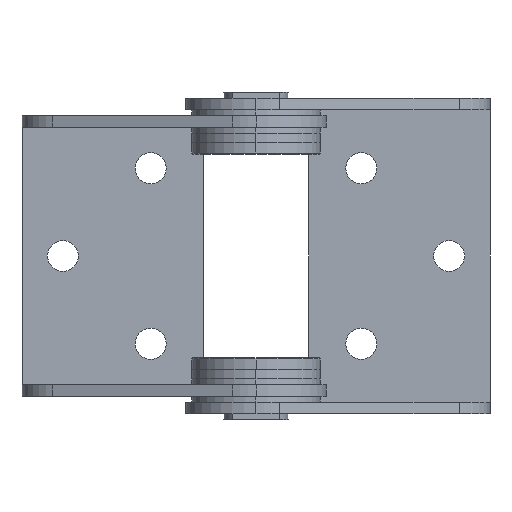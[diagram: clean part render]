
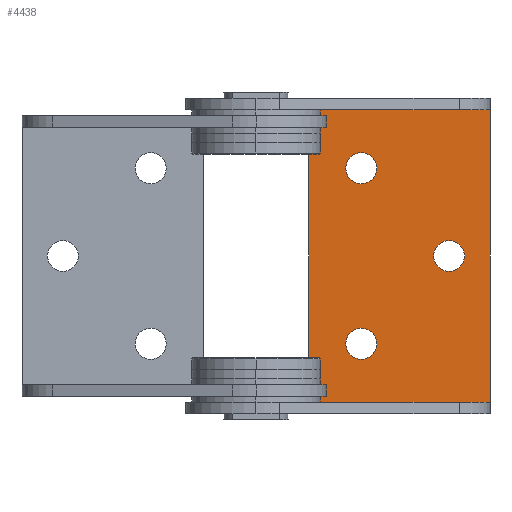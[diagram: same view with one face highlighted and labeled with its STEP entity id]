
A CAD part, left-side view. The second image highlights one B-rep face of the part: STEP entity #4438.
In plain terms, the highlighted planar face has unit normal (-1, 0, 0).
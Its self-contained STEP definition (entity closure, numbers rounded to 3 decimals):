
#131 = CIRCLE ( 'NONE', #140, 2.65 ) ;
#140 = AXIS2_PLACEMENT_3D ( 'NONE', #2436, #2437, #2438 ) ;
#144 = CIRCLE ( 'NONE', #146, 2.65 ) ;
#146 = AXIS2_PLACEMENT_3D ( 'NONE', #2446, #2447, #2448 ) ;
#150 = CIRCLE ( 'NONE', #152, 2.65 ) ;
#152 = AXIS2_PLACEMENT_3D ( 'NONE', #2456, #2457, #2458 ) ;
#205 = CIRCLE ( 'NONE', #224, 2.65 ) ;
#211 = CIRCLE ( 'NONE', #226, 2.65 ) ;
#217 = CIRCLE ( 'NONE', #228, 2.65 ) ;
#224 = AXIS2_PLACEMENT_3D ( 'NONE', #2655, #2656, #2657 ) ;
#226 = AXIS2_PLACEMENT_3D ( 'NONE', #2658, #2659, #2660 ) ;
#228 = AXIS2_PLACEMENT_3D ( 'NONE', #2661, #2662, #2663 ) ;
#230 = VECTOR ( 'NONE', #2665, 1000. ) ;
#232 = VECTOR ( 'NONE', #2667, 1000. ) ;
#271 = AXIS2_PLACEMENT_3D ( 'NONE', #2743, #2744, #2745 ) ;
#313 = VECTOR ( 'NONE', #2847, 1000. ) ;
#336 = VECTOR ( 'NONE', #2886, 1000. ) ;
#477 = CARTESIAN_POINT ( 'NONE',  ( 11., -15.35, 12. ) ) ;
#585 = ORIENTED_EDGE ( 'NONE', *, *, #4407, .T. ) ;
#586 = ORIENTED_EDGE ( 'NONE', *, *, #4406, .T. ) ;
#587 = ORIENTED_EDGE ( 'NONE', *, *, #4408, .T. ) ;
#588 = ORIENTED_EDGE ( 'NONE', *, *, #1502, .T. ) ;
#589 = ORIENTED_EDGE ( 'NONE', *, *, #4409, .T. ) ;
#590 = ORIENTED_EDGE ( 'NONE', *, *, #1506, .T. ) ;
#591 = ORIENTED_EDGE ( 'NONE', *, *, #4410, .F. ) ;
#592 = ORIENTED_EDGE ( 'NONE', *, *, #1510, .T. ) ;
#593 = ORIENTED_EDGE ( 'NONE', *, *, #4492, .F. ) ;
#595 = ORIENTED_EDGE ( 'NONE', *, *, #4474, .T. ) ;
#1388 = VERTEX_POINT ( 'NONE', #477 ) ;
#1502 = EDGE_CURVE ( 'NONE', #1615, #1388, #131, .T. ) ;
#1506 = EDGE_CURVE ( 'NONE', #1611, #1613, #144, .T. ) ;
#1510 = EDGE_CURVE ( 'NONE', #1612, #1572, #150, .T. ) ;
#1572 = VERTEX_POINT ( 'NONE', #2472 ) ;
#1590 = VERTEX_POINT ( 'NONE', #2490 ) ;
#1592 = VERTEX_POINT ( 'NONE', #2492 ) ;
#1611 = VERTEX_POINT ( 'NONE', #2511 ) ;
#1612 = VERTEX_POINT ( 'NONE', #2512 ) ;
#1613 = VERTEX_POINT ( 'NONE', #2513 ) ;
#1615 = VERTEX_POINT ( 'NONE', #2515 ) ;
#1626 = VERTEX_POINT ( 'NONE', #2526 ) ;
#1627 = VERTEX_POINT ( 'NONE', #2527 ) ;
#1695 = EDGE_LOOP ( 'NONE', ( #586, #588 ) ) ;
#1696 = EDGE_LOOP ( 'NONE', ( #585, #590 ) ) ;
#1697 = EDGE_LOOP ( 'NONE', ( #587, #592 ) ) ;
#1698 = EDGE_LOOP ( 'NONE', ( #589, #593, #591, #595 ) ) ;
#2181 = LINE ( 'NONE', #2664, #230 ) ;
#2182 = LINE ( 'NONE', #2666, #232 ) ;
#2195 = FACE_BOUND ( 'NONE', #1695, .T. ) ;
#2196 = FACE_BOUND ( 'NONE', #1696, .T. ) ;
#2197 = FACE_BOUND ( 'NONE', #1697, .T. ) ;
#2198 = FACE_OUTER_BOUND ( 'NONE', #1698, .T. ) ;
#2251 = LINE ( 'NONE', #2846, #313 ) ;
#2266 = LINE ( 'NONE', #2885, #336 ) ;
#2436 = CARTESIAN_POINT ( 'NONE',  ( 11., -18., 12. ) ) ;
#2437 = DIRECTION ( 'NONE',  ( 1., 0., 0. ) ) ;
#2438 = DIRECTION ( 'NONE',  ( 0., 1., 0. ) ) ;
#2446 = CARTESIAN_POINT ( 'NONE',  ( 11., -18., 42. ) ) ;
#2447 = DIRECTION ( 'NONE',  ( 1., 0., 0. ) ) ;
#2448 = DIRECTION ( 'NONE',  ( 0., 1., 0. ) ) ;
#2456 = CARTESIAN_POINT ( 'NONE',  ( 11., -33., 27. ) ) ;
#2457 = DIRECTION ( 'NONE',  ( 1., 0., 0. ) ) ;
#2458 = DIRECTION ( 'NONE',  ( 0., 1., 0. ) ) ;
#2472 = CARTESIAN_POINT ( 'NONE',  ( 11., -30.35, 27. ) ) ;
#2490 = CARTESIAN_POINT ( 'NONE',  ( 11., -40., 52. ) ) ;
#2492 = CARTESIAN_POINT ( 'NONE',  ( 11., -40., 2. ) ) ;
#2511 = CARTESIAN_POINT ( 'NONE',  ( 11., -20.65, 42. ) ) ;
#2512 = CARTESIAN_POINT ( 'NONE',  ( 11., -35.65, 27. ) ) ;
#2513 = CARTESIAN_POINT ( 'NONE',  ( 11., -15.35, 42. ) ) ;
#2515 = CARTESIAN_POINT ( 'NONE',  ( 11., -20.65, 12. ) ) ;
#2526 = CARTESIAN_POINT ( 'NONE',  ( 11., -9., 52. ) ) ;
#2527 = CARTESIAN_POINT ( 'NONE',  ( 11., -9., 2. ) ) ;
#2655 = CARTESIAN_POINT ( 'NONE',  ( 11., -18., 12. ) ) ;
#2656 = DIRECTION ( 'NONE',  ( 1., 0., 0. ) ) ;
#2657 = DIRECTION ( 'NONE',  ( 0., 1., 0. ) ) ;
#2658 = CARTESIAN_POINT ( 'NONE',  ( 11., -18., 42. ) ) ;
#2659 = DIRECTION ( 'NONE',  ( 1., 0., 0. ) ) ;
#2660 = DIRECTION ( 'NONE',  ( 0., 1., 0. ) ) ;
#2661 = CARTESIAN_POINT ( 'NONE',  ( 11., -33., 27. ) ) ;
#2662 = DIRECTION ( 'NONE',  ( 1., 0., 0. ) ) ;
#2663 = DIRECTION ( 'NONE',  ( 0., 1., 0. ) ) ;
#2664 = CARTESIAN_POINT ( 'NONE',  ( 11., -40., 2. ) ) ;
#2665 = DIRECTION ( 'NONE',  ( 0., -1., 0. ) ) ;
#2666 = CARTESIAN_POINT ( 'NONE',  ( 11., -40., 52. ) ) ;
#2667 = DIRECTION ( 'NONE',  ( 0., -1., 0. ) ) ;
#2742 = PLANE ( 'NONE',  #271 ) ;
#2743 = CARTESIAN_POINT ( 'NONE',  ( 11., -40., 52. ) ) ;
#2744 = DIRECTION ( 'NONE',  ( 1., 0., 0. ) ) ;
#2745 = DIRECTION ( 'NONE',  ( 0., 0., -1. ) ) ;
#2846 = CARTESIAN_POINT ( 'NONE',  ( 11., -9., 52. ) ) ;
#2847 = DIRECTION ( 'NONE',  ( 0., 0., -1. ) ) ;
#2885 = CARTESIAN_POINT ( 'NONE',  ( 11., -40., 52. ) ) ;
#2886 = DIRECTION ( 'NONE',  ( 0., 0., -1. ) ) ;
#4406 = EDGE_CURVE ( 'NONE', #1388, #1615, #205, .T. ) ;
#4407 = EDGE_CURVE ( 'NONE', #1613, #1611, #211, .T. ) ;
#4408 = EDGE_CURVE ( 'NONE', #1572, #1612, #217, .T. ) ;
#4409 = EDGE_CURVE ( 'NONE', #1627, #1592, #2181, .T. ) ;
#4410 = EDGE_CURVE ( 'NONE', #1626, #1590, #2182, .T. ) ;
#4438 = ADVANCED_FACE ( 'NONE', ( #2195, #2196, #2197, #2198 ), #2742, .F. ) ;
#4474 = EDGE_CURVE ( 'NONE', #1626, #1627, #2251, .T. ) ;
#4492 = EDGE_CURVE ( 'NONE', #1590, #1592, #2266, .T. ) ;
